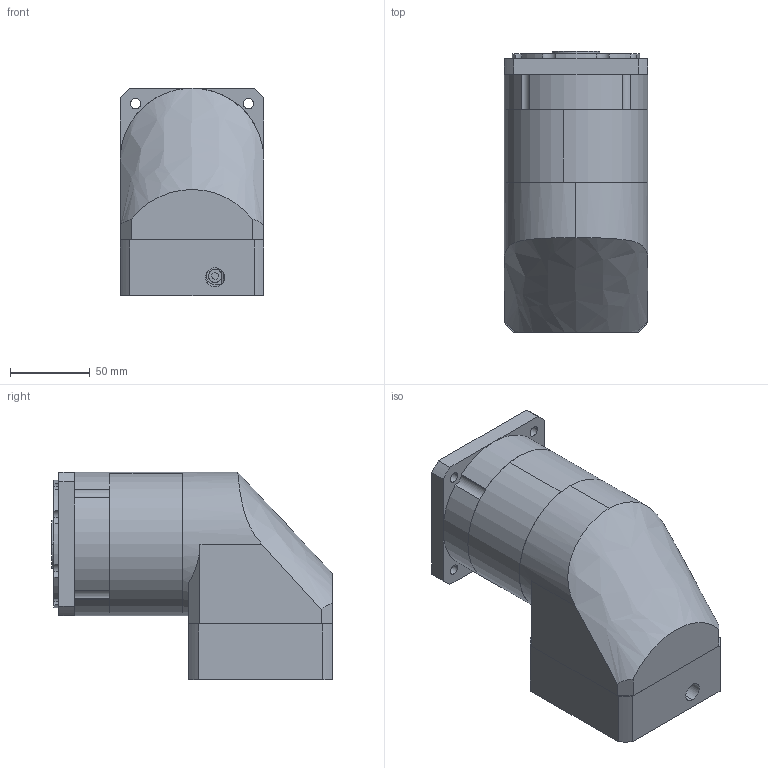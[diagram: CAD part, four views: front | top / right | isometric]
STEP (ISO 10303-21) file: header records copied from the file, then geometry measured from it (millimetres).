
FILE_DESCRIPTION (( 'STEP AP203' ), '1' );
FILE_NAME ('PVBF90-L2-19-70-90.STEP', '2023-06-19T05:54:21', ( 'Windows User' ), ( 'P R C' ), 'SwSTEP 2.0', 'SolidWorks 2016', '' );
FILE_SCHEMA (( 'CONFIG_CONTROL_DESIGN' ));
Length unit declared in the file: millimetre
Products named in the file (8): PVBF90-蟀諉啣-70-M5-90_1; PVBF90-薊粣ん_1; M5 x 20_1_2; 粣創-3206A 30x62x23.8_2_1_2; PVBF90-L2-19-70-90; PVBF90 眊极_揤翉_1; PVBF90 內齿圈-优化_二级内齿圈_1; PVBF90 上蓋版-孔输出20-B6_标准_1
Assembly tree (7 placements, depth 2):
  PVBF90-L2-19-70-90
    PVBF90 眊极_揤翉_1
    PVBF90 內齿圈-优化_二级内齿圈_1
    PVBF90 上蓋版-孔输出20-B6_标准_1
    PVBF90-蟀諉啣-70-M5-90_1
    PVBF90-薊粣ん_1
    M5 x 20_1_2
    粣創-3206A 30x62x23.8_2_1_2
Bounding box: 90 x 176 x 130 mm (x, y, z)
Volume: 1221984.1 mm3; surface area: 195180.9 mm2
Topology: 7 solids, 7 shells, 1142 faces, 3263 edges, 2142 vertices
Faces by surface type: plane 587, cylinder 227, bspline 164, torus 90, sphere 48, cone 26
Entity records: 46670 total; most frequent: CARTESIAN_POINT 17852, ORIENTED_EDGE 6250, DIRECTION 5111, EDGE_CURVE 3125, VERTEX_POINT 2070, LINE 1751, VECTOR 1751, AXIS2_PLACEMENT_3D 1680
